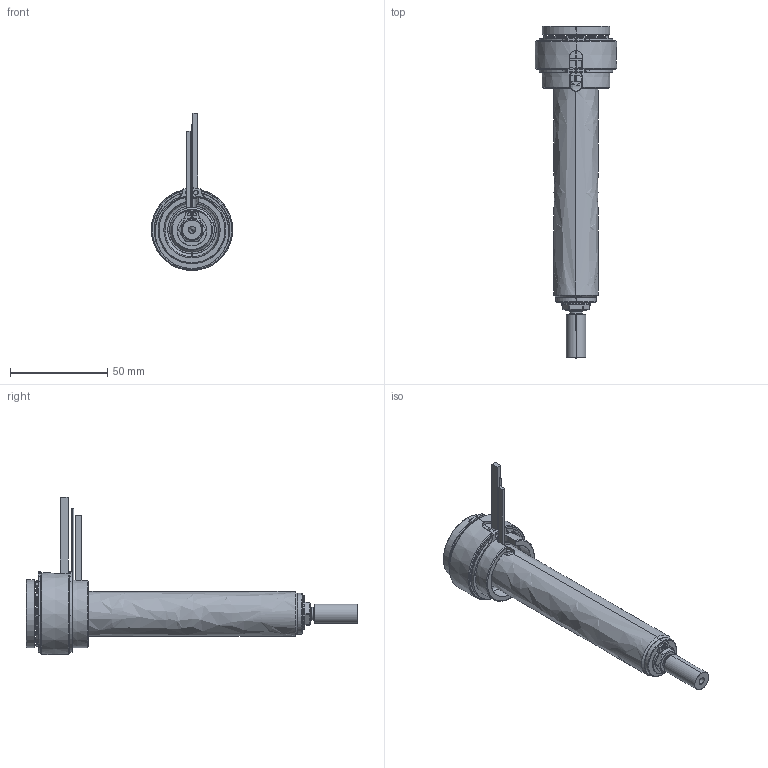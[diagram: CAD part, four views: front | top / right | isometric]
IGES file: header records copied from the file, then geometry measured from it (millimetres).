
Start section: SolidWorks IGES file using analytic representation for surfaces
Global section: file name: C:\Users\luca.EMPAD\Desktop\TEM\UGBE3503-S-A-P-3 [Ød-1.0 P-20 ØC-6.0].IGS; native system: SolidWorks 2012; preprocessor: SolidWorks 2012; author: luca; date: 120330.135535; units: millimetre
Bounding box: 42 x 171 x 80.9 mm (x, y, z)
Surface area: 37940.6 mm2 (no closed solid volume)
Topology: 0 solids, 0 shells, 187 faces, 3394 edges, 3394 vertices
Faces by surface type: revolution 119, bspline 68
